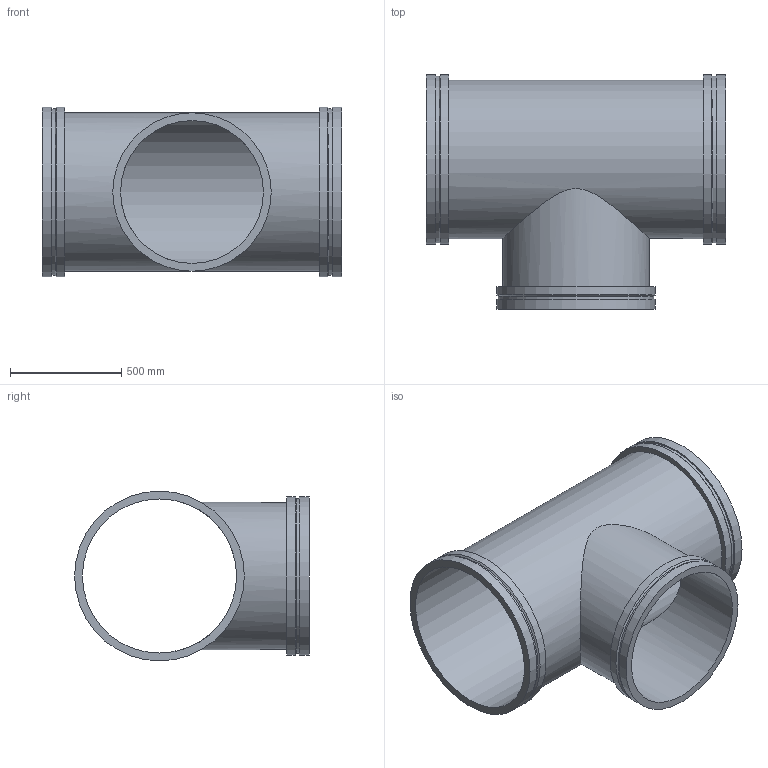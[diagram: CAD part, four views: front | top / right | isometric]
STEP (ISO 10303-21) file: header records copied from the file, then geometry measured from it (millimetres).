
FILE_DESCRIPTION(/* description */ ('VIC REDUCING TEE No W025 VR','CAx-IF Rec.Pracs.---Representation and Presentation of Product Manufacturing Information (PMI)---4.0---2014-10-13'),/* implementation_level */ '2;1');
FILE_NAME(/* name */ 'C:\Users\kkamble\AppData\Roaming\Autodesk\ApplicationPlugins\Back Up\Victaulic_Vic-Ring_Tee Reducing_No W25 VR (AGR)\Victaulic_Vic-Ring_Tee Reducing_No W25 VR (AGR)_28.0x26.0 (700x650).stp',/* time_stamp */ '2020-09-10T11:54:04+05:00',/* author */ ('mchristi'),/* organization */ ('Victaulic'),/* preprocessor_version */ 'ST-DEVELOPER v17.2',/* originating_system */ 'Autodesk Inventor 2019',/* authorisation */ '');
FILE_SCHEMA (('AP242_MANAGED_MODEL_BASED_3D_ENGINEERING_MIM_LF { 1 0 10303 442 1 1 4 }'));
Length unit declared in the file: inch
Products named in the file (1): W25 VR-28.0x26.0
Bounding box: 1346.2 x 1054.1 x 762 mm (x, y, z)
Volume: 49393116.8 mm3; surface area: 7391198.8 mm2
Topology: 1 solids, 1 shells, 25 faces, 68 edges, 52 vertices
Faces by surface type: cylinder 13, plane 9, cone 3
Full cylindrical faces by diameter (mm): 641.35 x1, 660.4 x1, 692.15 x1, 696.722 x1, 711.2 x3, 747.522 x2, 762 x4
Entity records: 1267 total; most frequent: CARTESIAN_POINT 423, DIRECTION 190, ORIENTED_EDGE 136, AXIS2_PLACEMENT_3D 87, EDGE_CURVE 68, VERTEX_POINT 52, CIRCLE 48, EDGE_LOOP 36
